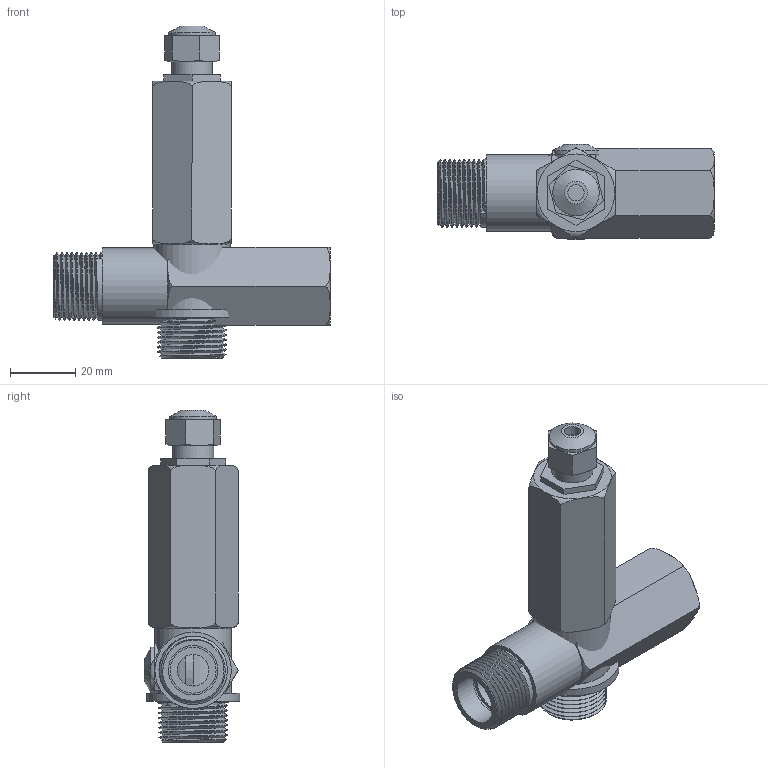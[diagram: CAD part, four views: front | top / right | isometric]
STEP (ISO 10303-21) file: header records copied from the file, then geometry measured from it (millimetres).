
FILE_DESCRIPTION( ( 'Unknown' ), '1' );
FILE_NAME( 'C:/Users/richards/Desktop/SF52 Assembly.stp', 'Unknown', ( 'Unknown' ), ( 'Unknown' ), 'PSStep 14.0', 'Unknown', ' ' );
FILE_SCHEMA( ( 'AUTOMOTIVE_DESIGN { 1 0 10303 214 1 1 1 1 }' ) );
Length unit declared in the file: millimetre
Products named in the file (6): Assem1; Cable Gland; 62799 - SF52 Filter disc; 62797 - SF52 Disc filter body; 62795_02 - SF52 Sensor housing; 12051 1_2 BSP  Dowty Seal
Bounding box: 85 x 29.3 x 102 mm (x, y, z)
Volume: 67221.9 mm3; surface area: 30342.7 mm2
Topology: 10 solids, 10 shells, 188 faces, 430 edges, 286 vertices
Faces by surface type: plane 100, cylinder 56, cone 16, bspline 12, torus 4
Full cylindrical faces by diameter (mm): 5 x4, 9.7 x2, 10 x2, 10.2 x2, 10.376 x2, 12 x2, 12.6 x2, 13 x2, 14.1 x2, 14.25 x2, 15.188 x2, 16 x2, 16.188 x2, 21 x18, 21.6 x2, 23.5 x2, 28.6 x2
Entity records: 4925 total; most frequent: CARTESIAN_POINT 2525, DIRECTION 329, ORIENTED_EDGE 300, EDGE_CURVE 150, AXIS2_PLACEMENT_3D 136, EDGE_LOOP 127, VERTEX_POINT 111, FACE_OUTER_BOUND 105
